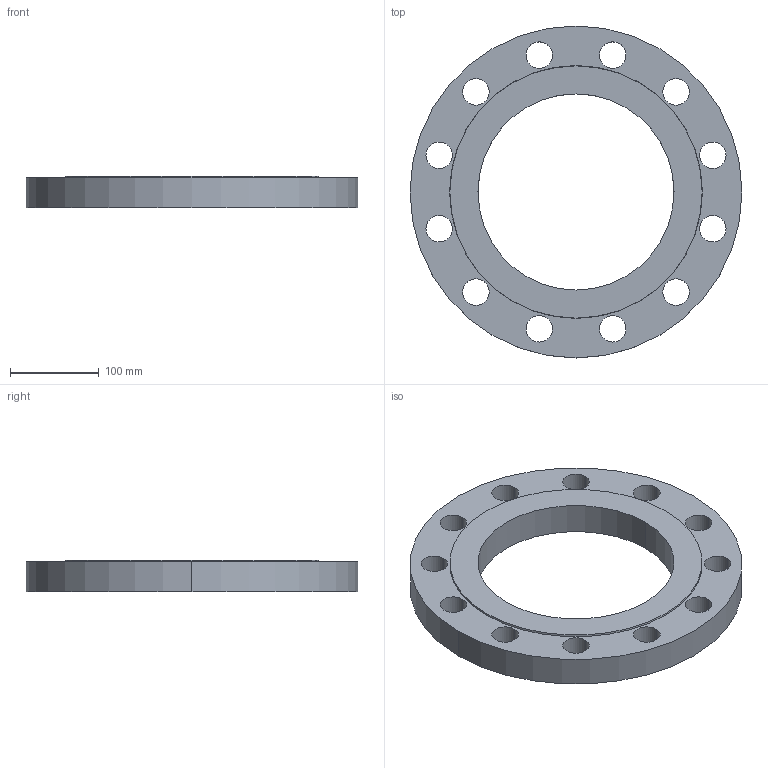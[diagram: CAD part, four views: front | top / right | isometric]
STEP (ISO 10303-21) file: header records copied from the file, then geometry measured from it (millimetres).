
FILE_DESCRIPTION (( 'STEP AP214' ), '1' );
FILE_NAME ('PN40 DN200 Type 01 - Type B Face.STEP', '2019-01-05T02:29:00', ( '' ), ( '' ), 'SwSTEP 2.0', 'SolidWorks 2019', '' );
FILE_SCHEMA (( 'AUTOMOTIVE_DESIGN' ));
Length unit declared in the file: millimetre
Products named in the file (1): PN40 DN200 Type 01 - Type B Face
Bounding box: 375 x 375 x 36 mm (x, y, z)
Volume: 2207488.3 mm3; surface area: 231925.7 mm2
Topology: 1 solids, 1 shells, 33 faces, 90 edges, 60 vertices
Faces by surface type: cylinder 28, plane 3, cone 2
Entity records: 1170 total; most frequent: DIRECTION 218, CARTESIAN_POINT 184, ORIENTED_EDGE 180, AXIS2_PLACEMENT_3D 94, EDGE_CURVE 90, CIRCLE 60, EDGE_LOOP 60, VERTEX_POINT 60
